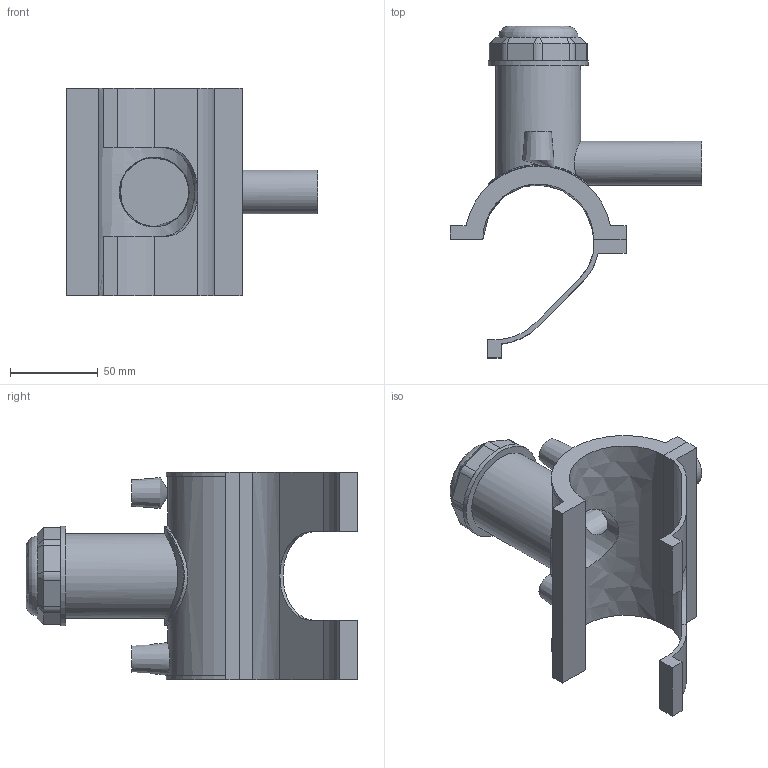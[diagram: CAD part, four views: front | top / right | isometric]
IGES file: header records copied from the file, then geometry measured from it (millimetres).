
Global section: file name: 496304063025N.ipt; native system: Autodesk Inventor 2015; preprocessor: unknown; author: KIM; date: 20190124.130629; units: millimetre
Bounding box: 143 x 188.78 x 118 mm (x, y, z)
Volume: 270938.3 mm3; surface area: 93980.1 mm2
Topology: 3 solids, 3 shells, 105 faces, 260 edges, 170 vertices
Faces by surface type: plane 63, cylinder 21, revolution 10, cone 10, bspline 1
Full cylindrical faces by diameter (mm): 4 x2, 25 x1, 48.195 x1, 56.7 x2
